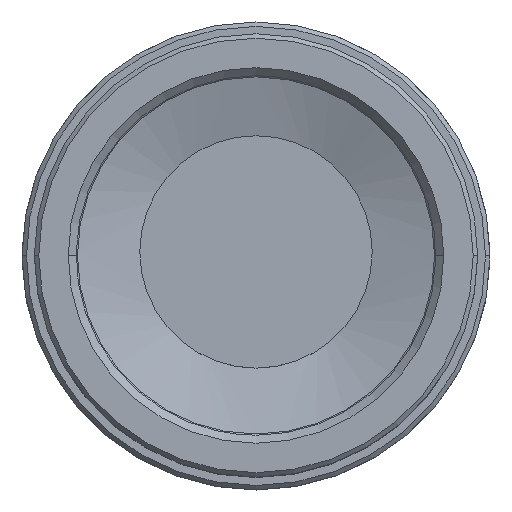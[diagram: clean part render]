
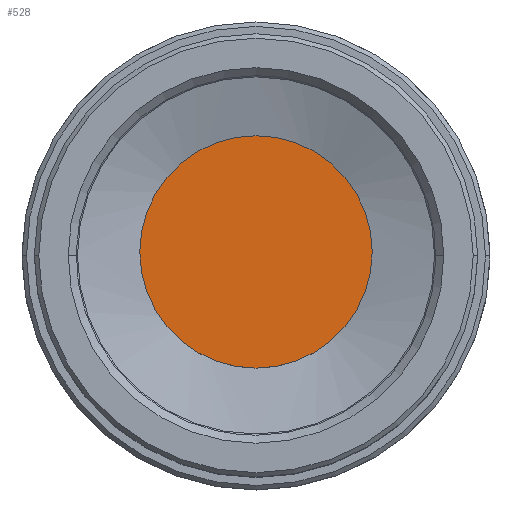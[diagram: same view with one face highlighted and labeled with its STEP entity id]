
A CAD part, top view. The second image highlights one B-rep face of the part: STEP entity #528.
In plain terms, the highlighted planar face has unit normal (0, 0, 1).
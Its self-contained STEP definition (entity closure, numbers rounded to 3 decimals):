
#96 = VERTEX_POINT ( 'NONE', #2684 ) ;
#155 = EDGE_LOOP ( 'NONE', ( #1256, #2108 ) ) ;
#414 = CARTESIAN_POINT ( 'NONE',  ( 0., 0., 365.904 ) ) ;
#458 = PLANE ( 'NONE',  #1949 ) ;
#528 = ADVANCED_FACE ( 'NONE', ( #1596 ), #458, .T. ) ;
#538 = VERTEX_POINT ( 'NONE', #1631 ) ;
#698 = DIRECTION ( 'NONE',  ( 0., 0., 1. ) ) ;
#1126 = DIRECTION ( 'NONE',  ( 0., 0., 1. ) ) ;
#1256 = ORIENTED_EDGE ( 'NONE', *, *, #1547, .T. ) ;
#1332 = CARTESIAN_POINT ( 'NONE',  ( 0., 0., 365.904 ) ) ;
#1547 = EDGE_CURVE ( 'NONE', #96, #538, #2713, .T. ) ;
#1575 = DIRECTION ( 'NONE',  ( -1., 0., 0. ) ) ;
#1596 = FACE_OUTER_BOUND ( 'NONE', #155, .T. ) ;
#1631 = CARTESIAN_POINT ( 'NONE',  ( 9.436, 0., 365.904 ) ) ;
#1949 = AXIS2_PLACEMENT_3D ( 'NONE', #2722, #698, #2277 ) ;
#2000 = DIRECTION ( 'NONE',  ( 0., 0., 1. ) ) ;
#2108 = ORIENTED_EDGE ( 'NONE', *, *, #2459, .T. ) ;
#2277 = DIRECTION ( 'NONE',  ( 1., 0., 0. ) ) ;
#2437 = DIRECTION ( 'NONE',  ( -1., 0., 0. ) ) ;
#2442 = AXIS2_PLACEMENT_3D ( 'NONE', #1332, #1126, #1575 ) ;
#2459 = EDGE_CURVE ( 'NONE', #538, #96, #2540, .T. ) ;
#2514 = AXIS2_PLACEMENT_3D ( 'NONE', #414, #2000, #2437 ) ;
#2540 = CIRCLE ( 'NONE', #2442, 9.436 ) ;
#2684 = CARTESIAN_POINT ( 'NONE',  ( -9.436, 0., 365.904 ) ) ;
#2713 = CIRCLE ( 'NONE', #2514, 9.436 ) ;
#2722 = CARTESIAN_POINT ( 'NONE',  ( 0., 0., 365.904 ) ) ;
